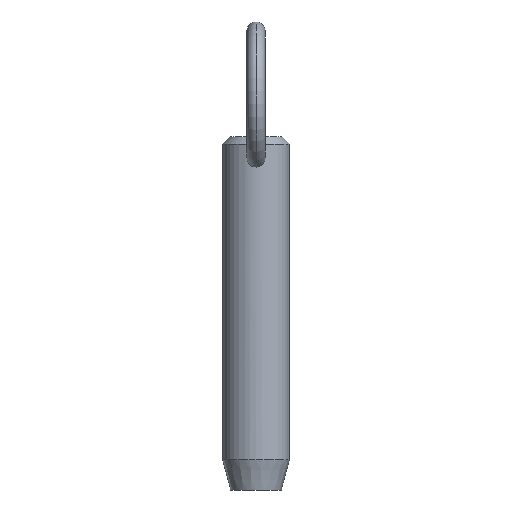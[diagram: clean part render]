
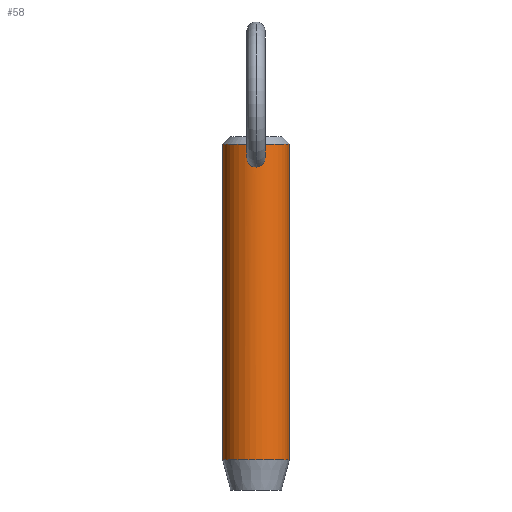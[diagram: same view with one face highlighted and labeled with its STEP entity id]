
A CAD part, front view. The second image highlights one B-rep face of the part: STEP entity #58.
In plain terms, the highlighted cylindrical face has radius 5.55 mm (diameter 11.1 mm), a partial arc.
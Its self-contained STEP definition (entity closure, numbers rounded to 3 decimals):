
#1 = CARTESIAN_POINT ( 'NONE',  ( 1.477, -5.35, 40.644 ) ) ;
#7 = CARTESIAN_POINT ( 'NONE',  ( -5.55, 0., 38.1 ) ) ;
#9 = CARTESIAN_POINT ( 'NONE',  ( 0., -5.55, 42.845 ) ) ;
#14 = CARTESIAN_POINT ( 'NONE',  ( 1.5, -5.343, 40.854 ) ) ;
#26 = CARTESIAN_POINT ( 'NONE',  ( -1.26, -5.407, 40.042 ) ) ;
#29 = EDGE_CURVE ( 'NONE', #339, #211, #331, .T. ) ;
#30 = CARTESIAN_POINT ( 'NONE',  ( -1.485, -5.348, 41.279 ) ) ;
#33 = CARTESIAN_POINT ( 'NONE',  ( -0.513, -5.527, 42.723 ) ) ;
#44 = CARTESIAN_POINT ( 'NONE',  ( 1.26, -5.407, 40.043 ) ) ;
#47 = CARTESIAN_POINT ( 'NONE',  ( 1.295, -5.397, 41.882 ) ) ;
#56 = CARTESIAN_POINT ( 'NONE',  ( 0.421, -5.535, 39.432 ) ) ;
#57 = CARTESIAN_POINT ( 'NONE',  ( -0.523, -5.526, 39.466 ) ) ;
#58 = ADVANCED_FACE ( 'NONE', ( #325, #99 ), #299, .T. ) ;
#61 = CARTESIAN_POINT ( 'NONE',  ( -1.5, -5.343, 40.853 ) ) ;
#64 = CARTESIAN_POINT ( 'NONE',  ( -1.195, -5.421, 42.071 ) ) ;
#88 = CARTESIAN_POINT ( 'NONE',  ( 0., 0., 38.1 ) ) ;
#90 = EDGE_CURVE ( 'NONE', #103, #445, #294, .T. ) ;
#91 = CARTESIAN_POINT ( 'NONE',  ( 0., -5.55, 42.845 ) ) ;
#94 = VERTEX_POINT ( 'NONE', #322 ) ;
#95 = CARTESIAN_POINT ( 'NONE',  ( -1.455, -5.356, 40.536 ) ) ;
#98 = CARTESIAN_POINT ( 'NONE',  ( -0.106, -5.55, 42.845 ) ) ;
#99 = FACE_BOUND ( 'NONE', #437, .T. ) ;
#103 = VERTEX_POINT ( 'NONE', #176 ) ;
#109 = DIRECTION ( 'NONE',  ( 0., 0., -1. ) ) ;
#121 = CARTESIAN_POINT ( 'NONE',  ( 0.515, -5.527, 42.722 ) ) ;
#125 = CARTESIAN_POINT ( 'NONE',  ( 0.107, -5.55, 39.377 ) ) ;
#126 = CARTESIAN_POINT ( 'NONE',  ( 5.55, 0., 38.1 ) ) ;
#131 = CARTESIAN_POINT ( 'NONE',  ( -5.55, 0., 43.15 ) ) ;
#136 = ORIENTED_EDGE ( 'NONE', *, *, #29, .T. ) ;
#152 = CARTESIAN_POINT ( 'NONE',  ( 0.417, -5.535, 42.767 ) ) ;
#163 = CARTESIAN_POINT ( 'NONE',  ( 0.716, -5.504, 39.552 ) ) ;
#168 = CARTESIAN_POINT ( 'NONE',  ( -0.807, -5.492, 39.605 ) ) ;
#176 = CARTESIAN_POINT ( 'NONE',  ( 5.55, 0., 43.15 ) ) ;
#199 = DIRECTION ( 'NONE',  ( -1., 0., 0. ) ) ;
#204 = DIRECTION ( 'NONE',  ( 0., 0., 1. ) ) ;
#208 = CARTESIAN_POINT ( 'NONE',  ( 0., -5.55, 42.845 ) ) ;
#211 = VERTEX_POINT ( 'NONE', #357 ) ;
#215 = CARTESIAN_POINT ( 'NONE',  ( -1.44, -5.36, 41.487 ) ) ;
#219 = CARTESIAN_POINT ( 'NONE',  ( 0., 0., 43.15 ) ) ;
#228 = VECTOR ( 'NONE', #277, 1000. ) ;
#236 = CARTESIAN_POINT ( 'NONE',  ( 1.503, -5.343, 40.959 ) ) ;
#240 = CARTESIAN_POINT ( 'NONE',  ( 1.486, -5.347, 41.274 ) ) ;
#243 = CARTESIAN_POINT ( 'NONE',  ( 0.523, -5.526, 39.466 ) ) ;
#246 = EDGE_LOOP ( 'NONE', ( #484, #329, #320, #429 ) ) ;
#247 = EDGE_CURVE ( 'NONE', #445, #351, #477, .T. ) ;
#248 = CARTESIAN_POINT ( 'NONE',  ( 0., -5.55, 39.377 ) ) ;
#249 = CARTESIAN_POINT ( 'NONE',  ( -1.054, -5.449, 39.804 ) ) ;
#259 = CARTESIAN_POINT ( 'NONE',  ( -0.785, -5.497, 42.558 ) ) ;
#271 = CARTESIAN_POINT ( 'NONE',  ( 1.363, -5.38, 40.234 ) ) ;
#277 = DIRECTION ( 'NONE',  ( 0., 0., -1. ) ) ;
#278 = CARTESIAN_POINT ( 'NONE',  ( 0.941, -5.471, 42.407 ) ) ;
#280 = CARTESIAN_POINT ( 'NONE',  ( 1.455, -5.356, 40.538 ) ) ;
#288 = CARTESIAN_POINT ( 'NONE',  ( 0., -5.55, 39.377 ) ) ;
#291 = CARTESIAN_POINT ( 'NONE',  ( -0.212, -5.547, 39.388 ) ) ;
#294 = CIRCLE ( 'NONE', #309, 5.55 ) ;
#296 = EDGE_CURVE ( 'NONE', #103, #94, #365, .T. ) ;
#298 = EDGE_CURVE ( 'NONE', #351, #94, #381, .T. ) ;
#299 = CYLINDRICAL_SURFACE ( 'NONE', #318, 5.55 ) ;
#301 = CARTESIAN_POINT ( 'NONE',  ( -1.503, -5.343, 40.959 ) ) ;
#309 = AXIS2_PLACEMENT_3D ( 'NONE', #219, #109, #516 ) ;
#312 = CARTESIAN_POINT ( 'NONE',  ( 1.055, -5.449, 39.805 ) ) ;
#314 = CARTESIAN_POINT ( 'NONE',  ( 0.106, -5.55, 42.845 ) ) ;
#318 = AXIS2_PLACEMENT_3D ( 'NONE', #88, #502, #417 ) ;
#320 = ORIENTED_EDGE ( 'NONE', *, *, #247, .T. ) ;
#322 = CARTESIAN_POINT ( 'NONE',  ( 5.55, 0., -9.2 ) ) ;
#325 = FACE_OUTER_BOUND ( 'NONE', #246, .T. ) ;
#327 = ORIENTED_EDGE ( 'NONE', *, *, #442, .T. ) ;
#328 = CARTESIAN_POINT ( 'NONE',  ( -0.716, -5.504, 39.552 ) ) ;
#329 = ORIENTED_EDGE ( 'NONE', *, *, #90, .T. ) ;
#330 = CARTESIAN_POINT ( 'NONE',  ( -1.362, -5.381, 40.232 ) ) ;
#331 = B_SPLINE_CURVE_WITH_KNOTS ( 'NONE', 3,
 ( #9, #314, #354, #152, #121, #496, #278, #403, #47, #406, #240, #236, #14, #1, #280, #271, #44, #312, #500, #410, #163, #243, #56, #461, #125, #248 ),
 .UNSPECIFIED., .F., .F.,
 ( 4, 2, 2, 2, 2, 2, 2, 2, 2, 2, 2, 2, 4 ),
 ( 0.005, 0.005, 0.005, 0.006, 0.006, 0.007, 0.007, 0.008, 0.008, 0.009, 0.009, 0.009, 0.01 ),
 .UNSPECIFIED. ) ;
#335 = CARTESIAN_POINT ( 'NONE',  ( -1.294, -5.398, 41.886 ) ) ;
#337 = AXIS2_PLACEMENT_3D ( 'NONE', #466, #204, #199 ) ;
#339 = VERTEX_POINT ( 'NONE', #91 ) ;
#351 = VERTEX_POINT ( 'NONE', #503 ) ;
#354 = CARTESIAN_POINT ( 'NONE',  ( 0.214, -5.547, 42.828 ) ) ;
#357 = CARTESIAN_POINT ( 'NONE',  ( 0., -5.55, 39.377 ) ) ;
#365 = LINE ( 'NONE', #126, #394 ) ;
#370 = CARTESIAN_POINT ( 'NONE',  ( -0.42, -5.535, 39.432 ) ) ;
#375 = B_SPLINE_CURVE_WITH_KNOTS ( 'NONE', 3,
 ( #288, #415, #291, #370, #57, #328, #168, #506, #249, #26, #330, #95, #382, #61, #301, #30, #215, #335, #64, #433, #259, #33, #425, #424, #98, #208 ),
 .UNSPECIFIED., .F., .F.,
 ( 4, 2, 2, 2, 2, 2, 2, 2, 2, 2, 2, 2, 4 ),
 ( 0.01, 0.01, 0.01, 0.011, 0.011, 0.012, 0.012, 0.012, 0.013, 0.013, 0.014, 0.014, 0.015 ),
 .UNSPECIFIED. ) ;
#381 = CIRCLE ( 'NONE', #337, 5.55 ) ;
#382 = CARTESIAN_POINT ( 'NONE',  ( -1.477, -5.35, 40.642 ) ) ;
#394 = VECTOR ( 'NONE', #411, 1000. ) ;
#403 = CARTESIAN_POINT ( 'NONE',  ( 1.194, -5.422, 42.071 ) ) ;
#406 = CARTESIAN_POINT ( 'NONE',  ( 1.44, -5.36, 41.486 ) ) ;
#410 = CARTESIAN_POINT ( 'NONE',  ( 0.807, -5.492, 39.606 ) ) ;
#411 = DIRECTION ( 'NONE',  ( 0., 0., -1. ) ) ;
#415 = CARTESIAN_POINT ( 'NONE',  ( -0.107, -5.55, 39.377 ) ) ;
#417 = DIRECTION ( 'NONE',  ( -1., 0., 0. ) ) ;
#424 = CARTESIAN_POINT ( 'NONE',  ( -0.211, -5.547, 42.829 ) ) ;
#425 = CARTESIAN_POINT ( 'NONE',  ( -0.416, -5.535, 42.767 ) ) ;
#429 = ORIENTED_EDGE ( 'NONE', *, *, #298, .T. ) ;
#433 = CARTESIAN_POINT ( 'NONE',  ( -0.939, -5.472, 42.41 ) ) ;
#437 = EDGE_LOOP ( 'NONE', ( #136, #327 ) ) ;
#442 = EDGE_CURVE ( 'NONE', #211, #339, #375, .T. ) ;
#445 = VERTEX_POINT ( 'NONE', #131 ) ;
#461 = CARTESIAN_POINT ( 'NONE',  ( 0.213, -5.547, 39.388 ) ) ;
#466 = CARTESIAN_POINT ( 'NONE',  ( 0., 0., -9.2 ) ) ;
#477 = LINE ( 'NONE', #7, #228 ) ;
#484 = ORIENTED_EDGE ( 'NONE', *, *, #296, .F. ) ;
#496 = CARTESIAN_POINT ( 'NONE',  ( 0.786, -5.497, 42.557 ) ) ;
#500 = CARTESIAN_POINT ( 'NONE',  ( 0.977, -5.464, 39.732 ) ) ;
#502 = DIRECTION ( 'NONE',  ( 0., 0., -1. ) ) ;
#503 = CARTESIAN_POINT ( 'NONE',  ( -5.55, 0., -9.2 ) ) ;
#506 = CARTESIAN_POINT ( 'NONE',  ( -0.976, -5.464, 39.731 ) ) ;
#516 = DIRECTION ( 'NONE',  ( 1., 0., 0. ) ) ;
